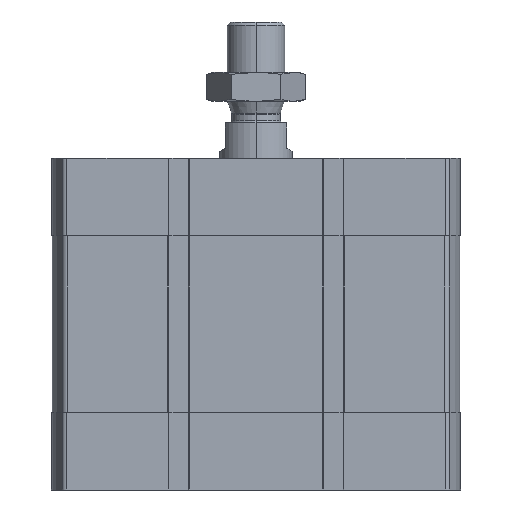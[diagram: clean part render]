
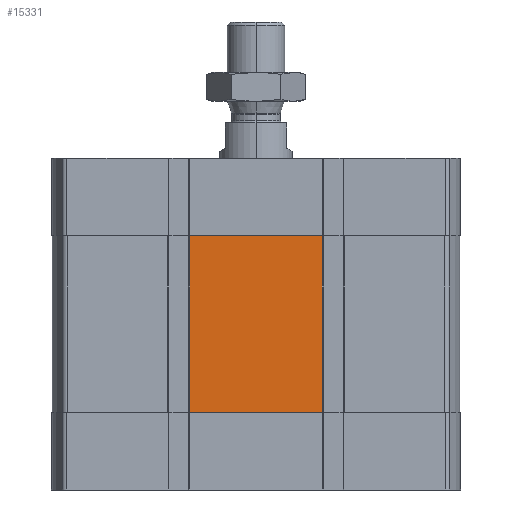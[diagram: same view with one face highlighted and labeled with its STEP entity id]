
A CAD part, left-side view. The second image highlights one B-rep face of the part: STEP entity #15331.
In plain terms, the highlighted planar face has unit normal (-1, 0, 0).
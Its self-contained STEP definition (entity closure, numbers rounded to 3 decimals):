
#98 = CARTESIAN_POINT ( 'NONE',  ( -56.5, -18.345, -21.5 ) ) ;
#311 = VERTEX_POINT ( 'NONE', #13422 ) ;
#709 = AXIS2_PLACEMENT_3D ( 'NONE', #16390, #1674, #13962 ) ;
#1674 = DIRECTION ( 'NONE',  ( -1., 0., 0. ) ) ;
#1791 = EDGE_CURVE ( 'NONE', #12478, #19394, #10467, .T. ) ;
#2126 = ORIENTED_EDGE ( 'NONE', *, *, #20435, .F. ) ;
#2966 = LINE ( 'NONE', #12543, #8664 ) ;
#4727 = LINE ( 'NONE', #14621, #19109 ) ;
#4767 = LINE ( 'NONE', #12827, #16523 ) ;
#6140 = DIRECTION ( 'NONE',  ( 0., -1., 0. ) ) ;
#6757 = ORIENTED_EDGE ( 'NONE', *, *, #17290, .T. ) ;
#7699 = VERTEX_POINT ( 'NONE', #98 ) ;
#8019 = FACE_OUTER_BOUND ( 'NONE', #9905, .T. ) ;
#8664 = VECTOR ( 'NONE', #15960, 1000. ) ;
#8827 = CARTESIAN_POINT ( 'NONE',  ( -56.5, 18.345, -21.5 ) ) ;
#8873 = DIRECTION ( 'NONE',  ( 0., 0., 1. ) ) ;
#9905 = EDGE_LOOP ( 'NONE', ( #2126, #19206, #6757, #15062 ) ) ;
#10031 = CARTESIAN_POINT ( 'NONE',  ( -56.5, 18.345, -70.5 ) ) ;
#10467 = LINE ( 'NONE', #17011, #18106 ) ;
#12478 = VERTEX_POINT ( 'NONE', #10031 ) ;
#12543 = CARTESIAN_POINT ( 'NONE',  ( -56.5, -18.345, -70.5 ) ) ;
#12827 = CARTESIAN_POINT ( 'NONE',  ( -56.5, 18.345, -21.5 ) ) ;
#13422 = CARTESIAN_POINT ( 'NONE',  ( -56.5, -18.345, -70.5 ) ) ;
#13962 = DIRECTION ( 'NONE',  ( 0., 0., 1. ) ) ;
#14067 = PLANE ( 'NONE',  #709 ) ;
#14621 = CARTESIAN_POINT ( 'NONE',  ( -56.5, 18.345, -70.5 ) ) ;
#15062 = ORIENTED_EDGE ( 'NONE', *, *, #21019, .T. ) ;
#15331 = ADVANCED_FACE ( 'NONE', ( #8019 ), #14067, .T. ) ;
#15960 = DIRECTION ( 'NONE',  ( 0., 0., 1. ) ) ;
#16390 = CARTESIAN_POINT ( 'NONE',  ( -56.5, 18.345, -70.5 ) ) ;
#16523 = VECTOR ( 'NONE', #17871, 1000. ) ;
#17011 = CARTESIAN_POINT ( 'NONE',  ( -56.5, 18.345, -70.5 ) ) ;
#17290 = EDGE_CURVE ( 'NONE', #12478, #311, #4727, .T. ) ;
#17871 = DIRECTION ( 'NONE',  ( 0., -1., 0. ) ) ;
#18106 = VECTOR ( 'NONE', #8873, 1000. ) ;
#19109 = VECTOR ( 'NONE', #6140, 1000. ) ;
#19206 = ORIENTED_EDGE ( 'NONE', *, *, #1791, .F. ) ;
#19394 = VERTEX_POINT ( 'NONE', #8827 ) ;
#20435 = EDGE_CURVE ( 'NONE', #19394, #7699, #4767, .T. ) ;
#21019 = EDGE_CURVE ( 'NONE', #311, #7699, #2966, .T. ) ;
